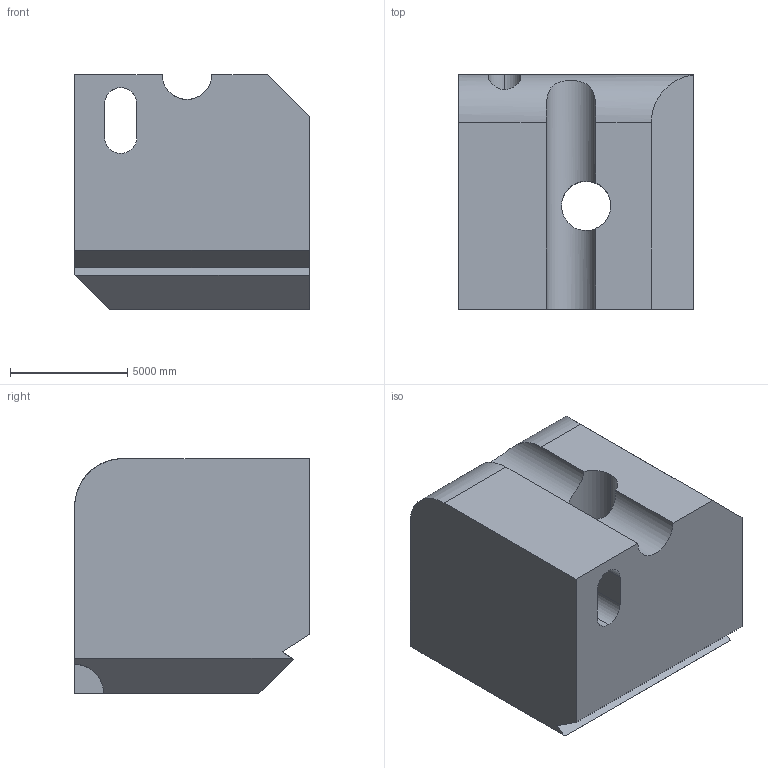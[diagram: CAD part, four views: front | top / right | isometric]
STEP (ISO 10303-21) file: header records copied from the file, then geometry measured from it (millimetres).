
FILE_DESCRIPTION (( 'STEP AP203' ), '1' );
FILE_NAME ('934.STEP', '2022-07-29T14:27:05', ( 'user' ), ( '' ), 'SwSTEP 2.0', 'SolidWorks 2021', '' );
FILE_SCHEMA (( 'CONFIG_CONTROL_DESIGN' ));
Length unit declared in the file: centimetre
Products named in the file (1): 934
Bounding box: 10000 x 10000 x 10000 mm (x, y, z)
Volume: 849212545931.4 mm3; surface area: 691779903.1 mm2
Topology: 1 solids, 1 shells, 27 faces, 78 edges, 52 vertices
Faces by surface type: plane 19, cylinder 8
Entity records: 1509 total; most frequent: CARTESIAN_POINT 709, ORIENTED_EDGE 156, DIRECTION 143, EDGE_CURVE 78, LINE 57, VECTOR 57, VERTEX_POINT 52, AXIS2_PLACEMENT_3D 43
